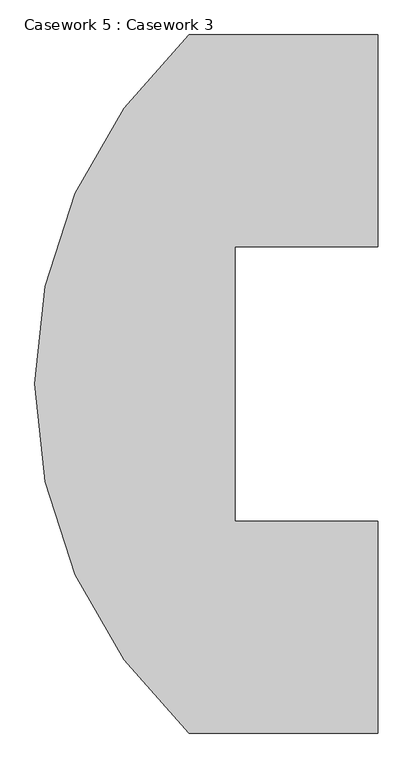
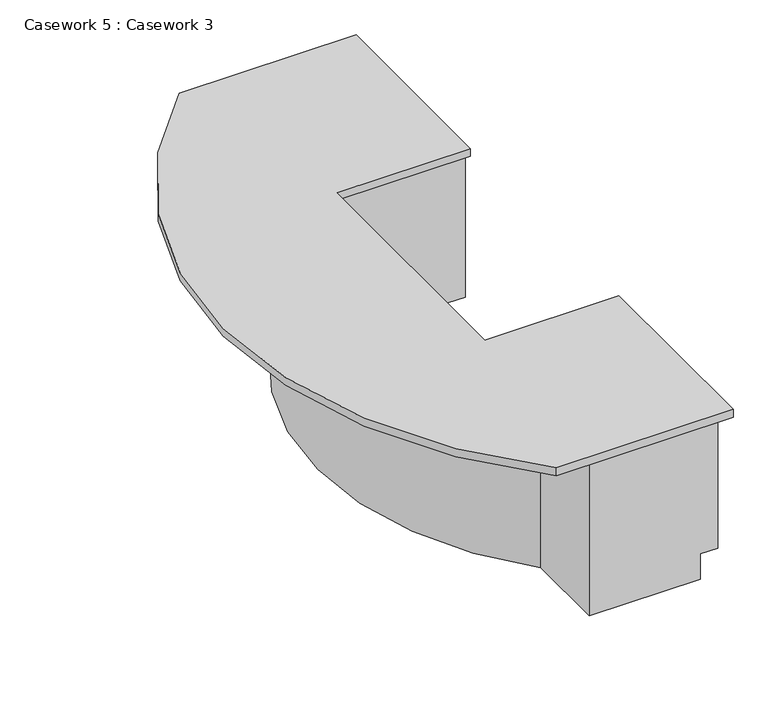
"""IFC4 building model written with IfcOpenShell, lengths in millimetres: furniture geometry, Casework 5 : Casework 3."""

import ifcopenshell
import ifcopenshell.guid

model = None  # the IFC model being written
_history = None  # IfcOwnerHistory: only IFC2X3 demands one
_inside = {}  # id of a spatial element -> (the spatial element, [elements in it])
_under = {}  # id of a project, library or spatial element -> (it, [spatial elements below it])
_declared = {}  # id of a project -> (the project, [libraries it declares])
_typed = {}  # id of a type object -> (the type object, [elements of that type])
_made_of = {}  # id of a material, layer set ... -> (it, [elements and type objects made of it])


def new_model(schema):
    """Start an empty IFC model of exactly this schema.

    Asked for "IFC4X3", IfcOpenShell would pick the latest addendum, in which some entities
    have other attributes; the version numbers below select the first issue.
    IFC2X3 requires an IfcOwnerHistory on every rooted entity: one is made here for all.
    """
    global model, _history
    if schema == "IFC4X3":
        model = ifcopenshell.file(schema_version=(4, 3, 0, 0))
    else:
        model = ifcopenshell.file(schema=schema)
    _inside.clear()
    _under.clear()
    _declared.clear()
    _typed.clear()
    _made_of.clear()
    _history = None
    if model.schema == "IFC2X3":
        org = make("IfcOrganization", Name="unknown")
        user = make(
            "IfcPersonAndOrganization",
            ThePerson=make("IfcPerson", FamilyName="unknown"),
            TheOrganization=org,
        )
        app = make(
            "IfcApplication",
            ApplicationDeveloper=org,
            Version="unknown",
            ApplicationFullName="unknown",
            ApplicationIdentifier="unknown",
        )
        _history = make(
            "IfcOwnerHistory",
            OwningUser=user,
            OwningApplication=app,
            ChangeAction="ADDED",
            CreationDate=0,
        )
    return model


def make(cls, **values):
    """One entity of the class cls with the attributes given. An attribute that is None is left unset."""
    return model.create_entity(
        cls, **{name: value for name, value in values.items() if value is not None}
    )


def rooted(cls, **values):
    """An entity with a GlobalId (a new one), such as an element, a storey or a relation."""
    return make(cls, GlobalId=ifcopenshell.guid.new(), OwnerHistory=_history, **values)


def si_unit(unit_type, name, prefix=None):
    """IfcSIUnit, for example si_unit("LENGTHUNIT", "METRE", prefix="MILLI")."""
    return make("IfcSIUnit", UnitType=unit_type, Prefix=prefix, Name=name)


def assignment(units):
    """IfcUnitAssignment: the units of a project."""
    return None if units is None else make("IfcUnitAssignment", Units=units)


def point(xyz):
    """IfcCartesianPoint."""
    return None if xyz is None else make("IfcCartesianPoint", Coordinates=xyz)


def direction(xyz):
    """IfcDirection."""
    return None if xyz is None else make("IfcDirection", DirectionRatios=xyz)


def frame(location, z_axis=None, x_axis=None):
    """IfcAxis2Placement3D, a coordinate frame: its origin and axes. An axis left out is left unset."""
    return make(
        "IfcAxis2Placement3D",
        Location=point(location),
        Axis=direction(z_axis),
        RefDirection=direction(x_axis),
    )


def frame_2d(location, x_axis=None):
    """IfcAxis2Placement2D, a coordinate frame in the plane: its origin and x axis."""
    return make(
        "IfcAxis2Placement2D", Location=point(location), RefDirection=direction(x_axis)
    )


def origin():
    """The frame at (0, 0, 0) with its axes left unset."""
    return frame((0.0, 0.0, 0.0))


def place(relative_to, where):
    """IfcLocalPlacement: puts the frame where relative to a parent placement (None: the world)."""
    return make(
        "IfcLocalPlacement", PlacementRelTo=relative_to, RelativePlacement=where
    )


def context(
    kind, dimensions, precision=None, world=None, true_north=None, identifier=None
):
    """IfcGeometricRepresentationContext, for example the 3D "Model" context."""
    return make(
        "IfcGeometricRepresentationContext",
        ContextIdentifier=identifier,
        ContextType=kind,
        CoordinateSpaceDimension=dimensions,
        Precision=precision,
        WorldCoordinateSystem=world,
        TrueNorth=true_north,
    )


def project(units=None, contexts=None):
    """IfcProject with its units and contexts."""
    return rooted(
        "IfcProject",
        Name="project",
        RepresentationContexts=contexts,
        UnitsInContext=assignment(units),
    )


def spatial(cls, under=None, at=None, **own):
    """A site, building, storey or space (cls), placed at a placement, below another one or the project."""
    s = rooted(cls, ObjectPlacement=at, **own)
    if under is not None:
        _under.setdefault(under.id(), (under, []))[1].append(s)
    return s


def polyline(points):
    """IfcPolyline through the points."""
    return make("IfcPolyline", Points=[point(p) for p in points])


def circle_curve(where, radius):
    """IfcCircle in the frame where."""
    return make("IfcCircle", Position=where, Radius=radius)


def trimmed(basis, trim1, trim2, sense, master):
    """IfcTrimmedCurve: the piece of a basis curve between two trims."""
    return make(
        "IfcTrimmedCurve",
        BasisCurve=basis,
        Trim1=trim1,
        Trim2=trim2,
        SenseAgreement=sense,
        MasterRepresentation=master,
    )


def segment(curve, same_sense, transition):
    """IfcCompositeCurveSegment."""
    return make(
        "IfcCompositeCurveSegment",
        Transition=transition,
        SameSense=same_sense,
        ParentCurve=curve,
    )


def composite_curve(segments, self_intersect=None):
    """IfcCompositeCurve: segments joined end to end."""
    return make("IfcCompositeCurve", Segments=segments, SelfIntersect=self_intersect)


def outline(outer, holes=None, kind="AREA"):
    """IfcArbitraryClosedProfileDef: a profile drawn as a closed curve; with holes, ...WithVoids."""
    if holes is None:
        return make("IfcArbitraryClosedProfileDef", ProfileType=kind, OuterCurve=outer)
    return make(
        "IfcArbitraryProfileDefWithVoids",
        ProfileType=kind,
        OuterCurve=outer,
        InnerCurves=holes,
    )


def extrude(swept, where, along, depth):
    """IfcExtrudedAreaSolid: the profile swept, set in the frame where, extruded along a direction by depth."""
    return make(
        "IfcExtrudedAreaSolid",
        SweptArea=swept,
        Position=where,
        ExtrudedDirection=direction(along),
        Depth=depth,
    )


def shape(context_of_items, identifier, shape_type, items):
    """IfcShapeRepresentation: the items that make up one representation, for example the "Body"."""
    return make(
        "IfcShapeRepresentation",
        ContextOfItems=context_of_items,
        RepresentationIdentifier=identifier,
        RepresentationType=shape_type,
        Items=items,
    )


def source(mapping_origin, context_of_items, identifier, shape_type, items):
    """IfcRepresentationMap: a shape defined once, which mapped items show again and again."""
    return make(
        "IfcRepresentationMap",
        MappingOrigin=mapping_origin,
        MappedRepresentation=shape(context_of_items, identifier, shape_type, items),
    )


def transform(
    local_origin,
    x_axis=None,
    y_axis=None,
    z_axis=None,
    scale=None,
    scale2=None,
    scale3=None,
    uniform=True,
):
    """IfcCartesianTransformationOperator3D, or its non-uniform kind. x_axis, y_axis, z_axis: its Axis1, 2, 3."""
    if uniform:
        return make(
            "IfcCartesianTransformationOperator3D",
            Axis1=direction(x_axis),
            Axis2=direction(y_axis),
            LocalOrigin=point(local_origin),
            Scale=scale,
            Axis3=direction(z_axis),
        )
    return make(
        "IfcCartesianTransformationOperator3DnonUniform",
        Axis1=direction(x_axis),
        Axis2=direction(y_axis),
        LocalOrigin=point(local_origin),
        Scale=scale,
        Axis3=direction(z_axis),
        Scale2=scale2,
        Scale3=scale3,
    )


def mapped(mapping_source, mapping_target):
    """IfcMappedItem: shows the shape of a source again, moved by a transform."""
    return make(
        "IfcMappedItem", MappingSource=mapping_source, MappingTarget=mapping_target
    )


def made_of(thing, what):
    """Note that an element or type object is made of a material, layer set ...; save() writes the relation."""
    if what is not None:
        _made_of.setdefault(what.id(), (what, []))[1].append(thing)
    return thing


def element(
    cls,
    number,
    at=None,
    inside=None,
    cuts=None,
    type_object=None,
    material=None,
    context=None,
    identifier="Body",
    shape_type=None,
    held_by="IfcProductDefinitionShape",
    body=None,
    shapes=None,
    **own,
):
    """One element of the class cls, such as IfcWall. Its Tag is "e" and its number.

    at: its placement. inside: the storey or other place that contains it. cuts: it is an
    opening in that element (IfcRelVoidsElement). A single representation is given by context,
    identifier, shape_type and body (its items); several are given by shapes. held_by: the class
    of the entity that holds the representations. save() writes the other relations.
    """
    e = rooted(cls, Tag="e%d" % number, ObjectPlacement=at, **own)
    if body is not None:
        shapes = [shape(context, identifier, shape_type, body)]
    if shapes is not None:
        e.Representation = make(held_by, Representations=shapes)
    if inside is not None:
        _inside.setdefault(inside.id(), (inside, []))[1].append(e)
    if cuts is not None:
        rooted(
            "IfcRelVoidsElement", RelatingBuildingElement=cuts, RelatedOpeningElement=e
        )
    if type_object is not None:
        _typed.setdefault(type_object.id(), (type_object, []))[1].append(e)
    return made_of(e, material)


def aggregate(whole, parts):
    """IfcRelAggregates: a whole, such as a stair, and the parts it consists of."""
    return rooted("IfcRelAggregates", RelatingObject=whole, RelatedObjects=parts)


def save(model, path):
    """Write the relations noted so far, then the file.

    IfcRelAggregates (storeys below a building ...), IfcRelContainedInSpatialStructure (elements
    in a storey), IfcRelDefinesByType, IfcRelAssociatesMaterial and IfcRelDeclares: one each for
    every whole, place, type object, material and project.
    """
    for whole, parts in _under.values():
        aggregate(whole, parts)
    for where, things in _inside.values():
        rooted(
            "IfcRelContainedInSpatialStructure",
            RelatedElements=things,
            RelatingStructure=where,
        )
    for kind, things in _typed.values():
        rooted("IfcRelDefinesByType", RelatedObjects=things, RelatingType=kind)
    for what, things in _made_of.values():
        rooted("IfcRelAssociatesMaterial", RelatedObjects=things, RelatingMaterial=what)
    for by, libraries in _declared.values():
        rooted("IfcRelDeclares", RelatingContext=by, RelatedDefinitions=libraries)
    model.write(path)


def plane_surface(at):
    """IfcPlane: the flat surface through the origin of the frame at, square to its z axis."""
    return make("IfcPlane", Position=at)


def cylinder_surface(at, radius):
    """IfcCylindricalSurface: all points at the distance radius from the z axis of the frame at."""
    return make("IfcCylindricalSurface", Position=at, Radius=radius)


def advanced_brep(points, edges, surfaces, faces):
    """IfcAdvancedBrep: a solid bounded by faces that lie on surfaces and meet in shared edges.

    An edge is (start, end): straight between two places in points (the first is 0);
    or (start, end, curve); or (start, end, curve, False) where it runs against its curve.
    A face is (place in surfaces, loops), or (place, loops, False) where it looks against
    its surface's normal. A loop lists edges by number (the first is 1), with a minus sign
    where the edge is run from its end to its start. The first loop is the outer one.
    """
    corners = [point(p) for p in points]
    vertices = [make("IfcVertexPoint", VertexGeometry=c) for c in corners]
    made = []
    for start, end, *more in edges:
        made.append(
            make(
                "IfcEdgeCurve",
                EdgeStart=vertices[start],
                EdgeEnd=vertices[end],
                EdgeGeometry=more[0] if more else make("IfcPolyline", Points=[corners[start], corners[end]]),
                SameSense=more[1] if len(more) > 1 else True,
            )
        )
    hull = []
    for where, loops, *sense in faces:
        bounds = []
        for j, loop in enumerate(loops):
            ring = [make("IfcOrientedEdge", EdgeElement=made[abs(k) - 1], Orientation=k > 0) for k in loop]
            bounds.append(
                make(
                    "IfcFaceOuterBound" if j == 0 else "IfcFaceBound",
                    Bound=make("IfcEdgeLoop", EdgeList=ring),
                    Orientation=True,
                )
            )
        hull.append(make("IfcAdvancedFace", Bounds=bounds, FaceSurface=surfaces[where], SameSense=sense[0] if sense else True))
    return make("IfcAdvancedBrep", Outer=make("IfcClosedShell", CfsFaces=hull))


def casework_5_casework_3_b1076f2b(model_context):
    return source(origin(), model_context, "Body", "SolidModel", [
        extrude(outline(composite_curve([segment(polyline([(1803.4, 5041.9), (965.2, 5041.9)]), True, "CONTINUOUS"), segment(trimmed(circle_curve(frame_2d((2372.2291519, 6591.3)), 2092.9336813), [point((965.2, 5041.9))], [point((965.2, 8140.7))], False, "CARTESIAN"), True, "CONTINUOUS"), segment(polyline([(965.2, 8140.7), (1803.4, 8140.7), (1803.4, 7200.9), (1168.4, 7200.9), (1168.4, 5981.7), (1803.4, 5981.7), (1803.4, 5041.9)]), True, "CONTINUOUS")], self_intersect=False)), frame((0.0, 0.0, 4076.7), z_axis=(0.0, 0.0, 1.0), x_axis=(1.0, 0.0, 0.0)), (0.0, 0.0, 1.0), 38.1),
        advanced_brep(
        [(1778.0, 5124.45, 4076.7), (1778.0, 5981.7, 4076.7), (1168.4, 5981.7, 4076.7), (1168.4, 7200.9, 4076.7), (1778.0, 7200.9, 4076.7), (1778.0, 8058.15, 4076.7), (1168.4, 8058.15, 4076.7), (1168.4, 7658.1, 4076.7), (1168.4, 5524.5, 4076.7), (1168.4, 5124.45, 4076.7), (1168.4, 5124.45, 3251.2), (1168.4, 5524.5, 3251.2), (1168.4, 7658.1, 3251.2), (1168.4, 8058.15, 3251.2), (1695.45, 8058.15, 3251.2), (1695.45, 7200.9, 3251.2), (1168.4, 7200.9, 3251.2), (1168.4, 5981.7, 3251.2), (1695.45, 5981.7, 3251.2), (1695.45, 5124.45, 3251.2), (1778.0, 5124.45, 3378.2), (1778.0, 5981.7, 3378.2), (1778.0, 5159.375, 3568.1708333), (1778.0, 5965.825, 3568.1708333), (1778.0, 5965.825, 3394.075), (1778.0, 5159.375, 3394.075), (1778.0, 5159.375, 3584.0458333), (1778.0, 5159.375, 3766.0791667), (1778.0, 5965.825, 3766.0791667), (1778.0, 5965.825, 3584.0458333), (1778.0, 5965.825, 3781.9541667), (1778.0, 5159.375, 3781.9541667), (1778.0, 5159.375, 3963.9875), (1778.0, 5965.825, 3963.9875), (1695.45, 5981.7, 3378.2), (1695.45, 7200.9, 3378.2), (1778.0, 7200.9, 3378.2), (1778.0, 8058.15, 3378.2), (1778.0, 8023.225, 3568.1708333), (1778.0, 8023.225, 3394.075), (1778.0, 7216.775, 3394.075), (1778.0, 7216.775, 3568.1708333), (1778.0, 8023.225, 3584.0458333), (1778.0, 7216.775, 3584.0458333), (1778.0, 7216.775, 3766.0791667), (1778.0, 8023.225, 3766.0791667), (1778.0, 7216.775, 3781.9541667), (1778.0, 7216.775, 3963.9875), (1778.0, 8023.225, 3963.9875), (1778.0, 8023.225, 3781.9541667), (1695.45, 8058.15, 3378.2), (1695.45, 5124.45, 3378.2), (1193.8, 8023.225, 3568.1708333), (1193.8, 7216.775, 3568.1708333), (1193.8, 7216.775, 3394.075), (1193.8, 8023.225, 3394.075), (1193.8, 8023.225, 3584.0458333), (1193.8, 8023.225, 3766.0791667), (1193.8, 7216.775, 3766.0791667), (1193.8, 7216.775, 3584.0458333), (1193.8, 7216.775, 3781.9541667), (1193.8, 8023.225, 3781.9541667), (1193.8, 8023.225, 3963.9875), (1193.8, 7216.775, 3963.9875), (1193.8, 5159.375, 3568.1708333), (1193.8, 5159.375, 3394.075), (1193.8, 5965.825, 3394.075), (1193.8, 5965.825, 3568.1708333), (1193.8, 5159.375, 3584.0458333), (1193.8, 5965.825, 3584.0458333), (1193.8, 5965.825, 3766.0791667), (1193.8, 5159.375, 3766.0791667), (1193.8, 5965.825, 3781.9541667), (1193.8, 5965.825, 3963.9875), (1193.8, 5159.375, 3963.9875), (1193.8, 5159.375, 3781.9541667)],
        [
            (0, 1),
            (1, 2),
            (2, 3),
            (3, 4),
            (4, 5),
            (5, 6),
            (6, 7),
            (7, 8, circle_curve(frame((2233.8665727, 6591.3, 4076.7), z_axis=(0.0, 0.0, 1.0), x_axis=(1.0, 0.0, 0.0)), 1507.7404477)),
            (8, 9),
            (9, 0),
            (10, 11),
            (11, 12, circle_curve(frame((2233.8665727, 6591.3, 3251.2), z_axis=(0.0, 0.0, -1.0), x_axis=(1.0, 0.0, 0.0)), 1507.7404477)),
            (12, 13),
            (13, 14),
            (14, 15),
            (15, 16),
            (16, 17),
            (17, 18),
            (18, 19),
            (19, 10),
            (0, 20),
            (20, 21),
            (21, 1),
            (22, 23),
            (23, 24),
            (24, 25),
            (25, 22),
            (26, 27),
            (27, 28),
            (28, 29),
            (29, 26),
            (30, 31),
            (31, 32),
            (32, 33),
            (33, 30),
            (21, 34),
            (34, 18),
            (17, 2),
            (16, 3),
            (15, 35),
            (35, 36),
            (36, 4),
            (36, 37),
            (37, 5),
            (38, 39),
            (39, 40),
            (40, 41),
            (41, 38),
            (42, 43),
            (43, 44),
            (44, 45),
            (45, 42),
            (46, 47),
            (47, 48),
            (48, 49),
            (49, 46),
            (37, 50),
            (50, 14),
            (13, 6),
            (12, 7),
            (11, 8),
            (10, 9),
            (19, 51),
            (51, 20),
            (51, 34),
            (35, 50),
            (52, 53),
            (53, 54),
            (54, 55),
            (55, 52),
            (56, 57),
            (57, 58),
            (58, 59),
            (59, 56),
            (60, 61),
            (61, 62),
            (62, 63),
            (63, 60),
            (64, 65),
            (65, 66),
            (66, 67),
            (67, 64),
            (68, 69),
            (69, 70),
            (70, 71),
            (71, 68),
            (72, 73),
            (73, 74),
            (74, 75),
            (75, 72),
            (55, 39),
            (38, 52),
            (54, 40),
            (53, 41),
            (59, 43),
            (42, 56),
            (58, 44),
            (57, 45),
            (63, 47),
            (46, 60),
            (62, 48),
            (61, 49),
            (67, 23),
            (22, 64),
            (66, 24),
            (65, 25),
            (71, 27),
            (26, 68),
            (70, 28),
            (69, 29),
            (75, 31),
            (30, 72),
            (74, 32),
            (73, 33),
        ],
        [
            plane_surface(frame((1778.0, 5965.825, 4076.7), z_axis=(0.0, 0.0, 1.0), x_axis=(0.0, 1.0, 0.0))),
            plane_surface(frame((1778.0, 5965.825, 3251.2), z_axis=(0.0, 0.0, -1.0), x_axis=(0.0, -1.0, 0.0))),
            plane_surface(frame((1778.0, 5124.45, 4076.7), z_axis=(1.0, 0.0, 0.0), x_axis=(0.0, 0.0, -1.0))),
            plane_surface(frame((1778.0, 5981.7, 4076.7), z_axis=(0.0, 1.0, 0.0), x_axis=(0.0, 0.0, -1.0))),
            plane_surface(frame((1168.4, 5981.7, 4076.7), z_axis=(1.0, 0.0, 0.0), x_axis=(0.0, 0.0, -1.0))),
            plane_surface(frame((1168.4, 7200.9, 4076.7), z_axis=(0.0, -1.0, 0.0), x_axis=(0.0, 0.0, -1.0))),
            plane_surface(frame((1778.0, 7200.9, 4076.7), z_axis=(1.0, 0.0, 0.0), x_axis=(0.0, 0.0, -1.0))),
            plane_surface(frame((1778.0, 8058.15, 4076.7), z_axis=(0.0, 1.0, 0.0), x_axis=(0.0, 0.0, -1.0))),
            plane_surface(frame((1168.4, 8058.15, 4076.7), z_axis=(-1.0, 0.0, 0.0), x_axis=(0.0, 0.0, -1.0))),
            cylinder_surface(frame((2233.8665727, 6591.3, 3251.2), z_axis=(0.0, 0.0, 1.0), x_axis=(1.0, 0.0, 0.0)), 1507.7404477),
            plane_surface(frame((1168.4, 5524.5, 4076.7), z_axis=(-1.0, 0.0, 0.0), x_axis=(0.0, 0.0, -1.0))),
            plane_surface(frame((1168.4, 5124.45, 4076.7), z_axis=(0.0, -1.0, 0.0), x_axis=(0.0, 0.0, -1.0))),
            plane_surface(frame((1695.45, 8058.15, 3378.2), z_axis=(0.0, 0.0, -1.0), x_axis=(0.0, -1.0, 0.0))),
            plane_surface(frame((1695.45, 8058.15, 3251.2), z_axis=(1.0, 0.0, 0.0), x_axis=(0.0, -1.0, 0.0))),
            plane_surface(frame((1193.8, 8023.225, 3568.1708333), z_axis=(1.0, 0.0, 0.0), x_axis=(0.0, 0.0, -1.0))),
            plane_surface(frame((1193.8, 8023.225, 3568.1708333), z_axis=(0.0, -1.0, 0.0), x_axis=(1.0, 0.0, 0.0))),
            plane_surface(frame((1193.8, 8023.225, 3394.075), z_axis=(0.0, 0.0, 1.0), x_axis=(1.0, 0.0, 0.0))),
            plane_surface(frame((1193.8, 7216.775, 3394.075), z_axis=(0.0, 1.0, 0.0), x_axis=(1.0, 0.0, 0.0))),
            plane_surface(frame((1193.8, 7216.775, 3568.1708333), z_axis=(0.0, 0.0, -1.0), x_axis=(1.0, 0.0, 0.0))),
            plane_surface(frame((1193.8, 8023.225, 3584.0458333), z_axis=(0.0, 0.0, 1.0), x_axis=(1.0, 0.0, 0.0))),
            plane_surface(frame((1193.8, 7216.775, 3584.0458333), z_axis=(0.0, 1.0, 0.0), x_axis=(1.0, 0.0, 0.0))),
            plane_surface(frame((1193.8, 7216.775, 3766.0791667), z_axis=(0.0, 0.0, -1.0), x_axis=(1.0, 0.0, 0.0))),
            plane_surface(frame((1193.8, 8023.225, 3766.0791667), z_axis=(0.0, -1.0, 0.0), x_axis=(1.0, 0.0, 0.0))),
            plane_surface(frame((1193.8, 7216.775, 3781.9541667), z_axis=(0.0, 1.0, 0.0), x_axis=(1.0, 0.0, 0.0))),
            plane_surface(frame((1193.8, 7216.775, 3963.9875), z_axis=(0.0, 0.0, -1.0), x_axis=(1.0, 0.0, 0.0))),
            plane_surface(frame((1193.8, 8023.225, 3963.9875), z_axis=(0.0, -1.0, 0.0), x_axis=(1.0, 0.0, 0.0))),
            plane_surface(frame((1193.8, 8023.225, 3781.9541667), z_axis=(0.0, 0.0, 1.0), x_axis=(1.0, 0.0, 0.0))),
            plane_surface(frame((1193.8, 5159.375, 3568.1708333), z_axis=(0.0, 0.0, -1.0), x_axis=(1.0, 0.0, 0.0))),
            plane_surface(frame((1193.8, 5965.825, 3568.1708333), z_axis=(0.0, -1.0, 0.0), x_axis=(1.0, 0.0, 0.0))),
            plane_surface(frame((1193.8, 5965.825, 3394.075), z_axis=(0.0, 0.0, 1.0), x_axis=(1.0, 0.0, 0.0))),
            plane_surface(frame((1193.8, 5159.375, 3394.075), z_axis=(0.0, 1.0, 0.0), x_axis=(1.0, 0.0, 0.0))),
            plane_surface(frame((1193.8, 5159.375, 3584.0458333), z_axis=(0.0, 1.0, 0.0), x_axis=(1.0, 0.0, 0.0))),
            plane_surface(frame((1193.8, 5159.375, 3766.0791667), z_axis=(0.0, 0.0, -1.0), x_axis=(1.0, 0.0, 0.0))),
            plane_surface(frame((1193.8, 5965.825, 3766.0791667), z_axis=(0.0, -1.0, 0.0), x_axis=(1.0, 0.0, 0.0))),
            plane_surface(frame((1193.8, 5965.825, 3584.0458333), z_axis=(0.0, 0.0, 1.0), x_axis=(1.0, 0.0, 0.0))),
            plane_surface(frame((1193.8, 5965.825, 3781.9541667), z_axis=(0.0, 0.0, 1.0), x_axis=(1.0, 0.0, 0.0))),
            plane_surface(frame((1193.8, 5159.375, 3781.9541667), z_axis=(0.0, 1.0, 0.0), x_axis=(1.0, 0.0, 0.0))),
            plane_surface(frame((1193.8, 5159.375, 3963.9875), z_axis=(0.0, 0.0, -1.0), x_axis=(1.0, 0.0, 0.0))),
            plane_surface(frame((1193.8, 5965.825, 3963.9875), z_axis=(0.0, -1.0, 0.0), x_axis=(1.0, 0.0, 0.0))),
        ],
        [
            (0, [[1, 2, 3, 4, 5, 6, 7, 8, 9, 10]]),
            (1, [[11, 12, 13, 14, 15, 16, 17, 18, 19, 20]]),
            (2, [[-1, 21, 22, 23], [24, 25, 26, 27], [28, 29, 30, 31], [32, 33, 34, 35]]),
            (3, [[-2, -23, 36, 37, -18, 38]]),
            (4, [[-3, -38, -17, 39]]),
            (5, [[-4, -39, -16, 40, 41, 42]]),
            (6, [[-5, -42, 43, 44], [45, 46, 47, 48], [49, 50, 51, 52], [53, 54, 55, 56]]),
            (7, [[-6, -44, 57, 58, -14, 59]]),
            (8, [[-7, -59, -13, 60]]),
            (9, [[-8, -60, -12, 61]]),
            (10, [[-9, -61, -11, 62]]),
            (11, [[-10, -62, -20, 63, 64, -21]]),
            (12, [[65, -36, -22, -64]]),
            (12, [[66, -57, -43, -41]]),
            (13, [[-65, -63, -19, -37]]),
            (13, [[-66, -40, -15, -58]]),
            (14, [[67, 68, 69, 70]]),
            (14, [[71, 72, 73, 74]]),
            (14, [[75, 76, 77, 78]]),
            (14, [[79, 80, 81, 82]]),
            (14, [[83, 84, 85, 86]]),
            (14, [[87, 88, 89, 90]]),
            (15, [[-70, 91, -45, 92]]),
            (16, [[-69, 93, -46, -91]]),
            (17, [[-68, 94, -47, -93]]),
            (18, [[-67, -92, -48, -94]]),
            (19, [[-74, 95, -49, 96]]),
            (20, [[-73, 97, -50, -95]]),
            (21, [[-72, 98, -51, -97]]),
            (22, [[-71, -96, -52, -98]]),
            (23, [[-78, 99, -53, 100]]),
            (24, [[-77, 101, -54, -99]]),
            (25, [[-76, 102, -55, -101]]),
            (26, [[-75, -100, -56, -102]]),
            (27, [[-82, 103, -24, 104]]),
            (28, [[-81, 105, -25, -103]]),
            (29, [[-80, 106, -26, -105]]),
            (30, [[-79, -104, -27, -106]]),
            (31, [[-86, 107, -28, 108]]),
            (32, [[-85, 109, -29, -107]]),
            (33, [[-84, 110, -30, -109]]),
            (34, [[-83, -108, -31, -110]]),
            (35, [[-90, 111, -32, 112]]),
            (36, [[-89, 113, -33, -111]]),
            (37, [[-88, 114, -34, -113]]),
            (38, [[-87, -112, -35, -114]]),
        ],
    ),
    ])


if __name__ == "__main__":
    model = new_model("IFC4")
    model_context = context("Model", 3, world=origin())
    ifc_project = project(units=[si_unit("LENGTHUNIT", "METRE", prefix="MILLI")], contexts=[model_context])
    site = spatial("IfcSite", under=ifc_project)
    building = spatial("IfcBuilding", under=site)
    placement = place(None, origin())
    casework_5_casework_3_shape = casework_5_casework_3_b1076f2b(model_context)
    element("IfcFurniture", 1, ObjectType="Casework 5 : Casework 3", at=placement, inside=building, context=model_context, shape_type="MappedRepresentation", body=[
        mapped(casework_5_casework_3_shape, transform((0.0, 0.0, 0.0), x_axis=(1.0, 0.0, 0.0), y_axis=(0.0, 1.0, 0.0), z_axis=(0.0, 0.0, 1.0))),
    ])
    save(model, "model.ifc")
